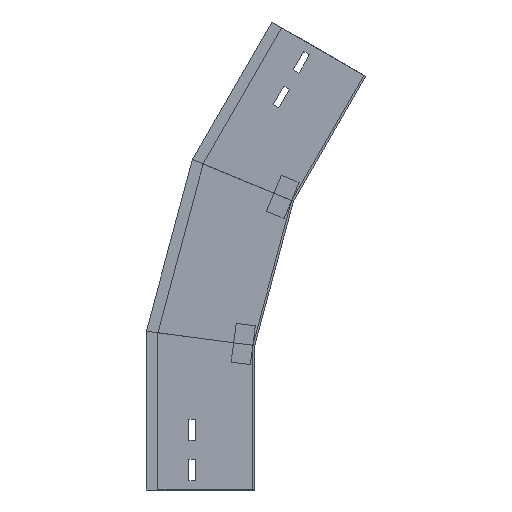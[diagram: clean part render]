
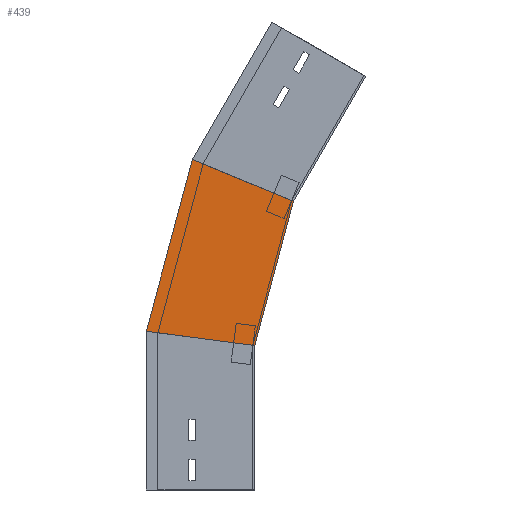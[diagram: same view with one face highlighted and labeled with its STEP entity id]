
A CAD part, left-side view. The second image highlights one B-rep face of the part: STEP entity #439.
In plain terms, the highlighted planar face has unit normal (-1, 0, 0) as drawn and (1, 0, 0) by its records, which use the part's own axes.
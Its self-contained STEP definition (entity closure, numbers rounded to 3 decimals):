
#24 = EDGE_CURVE ( 'NONE', #682, #1186, #198, .T. ) ;
#90 = DIRECTION ( 'NONE',  ( 0., -0.924, -0.383 ) ) ;
#92 = CARTESIAN_POINT ( 'NONE',  ( 0., 0., 150. ) ) ;
#94 = LINE ( 'NONE', #1126, #1498 ) ;
#95 = DIRECTION ( 'NONE',  ( 1., 0., 0. ) ) ;
#175 = VERTEX_POINT ( 'NONE', #92 ) ;
#197 = PLANE ( 'NONE',  #374 ) ;
#198 = LINE ( 'NONE', #1129, #1164 ) ;
#272 = VERTEX_POINT ( 'NONE', #433 ) ;
#275 = LINE ( 'NONE', #729, #863 ) ;
#292 = CARTESIAN_POINT ( 'NONE',  ( 0., -40.117, 299.719 ) ) ;
#374 = AXIS2_PLACEMENT_3D ( 'NONE', #778, #95, #551 ) ;
#398 = CARTESIAN_POINT ( 'NONE',  ( 0., 4.243, 134.167 ) ) ;
#433 = CARTESIAN_POINT ( 'NONE',  ( 0., 112.5, 164.811 ) ) ;
#439 = ADVANCED_FACE ( 'NONE', ( #923 ), #197, .T. ) ;
#458 = CARTESIAN_POINT ( 'NONE',  ( 0., 64.716, 343.142 ) ) ;
#532 = EDGE_LOOP ( 'NONE', ( #698, #644, #1026, #692 ) ) ;
#551 = DIRECTION ( 'NONE',  ( 0., 0., -1. ) ) ;
#569 = DIRECTION ( 'NONE',  ( 0., -0.259, 0.966 ) ) ;
#644 = ORIENTED_EDGE ( 'NONE', *, *, #24, .T. ) ;
#682 = VERTEX_POINT ( 'NONE', #458 ) ;
#692 = ORIENTED_EDGE ( 'NONE', *, *, #829, .F. ) ;
#698 = ORIENTED_EDGE ( 'NONE', *, *, #1259, .T. ) ;
#729 = CARTESIAN_POINT ( 'NONE',  ( 0., -19.411, 147.444 ) ) ;
#778 = CARTESIAN_POINT ( 'NONE',  ( 0., 4.243, 134.167 ) ) ;
#829 = EDGE_CURVE ( 'NONE', #272, #175, #275, .T. ) ;
#863 = VECTOR ( 'NONE', #1201, 1000. ) ;
#872 = DIRECTION ( 'NONE',  ( 0., -0.259, 0.966 ) ) ;
#923 = FACE_OUTER_BOUND ( 'NONE', #532, .T. ) ;
#1026 = ORIENTED_EDGE ( 'NONE', *, *, #1447, .F. ) ;
#1097 = LINE ( 'NONE', #398, #1278 ) ;
#1126 = CARTESIAN_POINT ( 'NONE',  ( 0., 112.909, 163.284 ) ) ;
#1129 = CARTESIAN_POINT ( 'NONE',  ( 0., -60.785, 291.157 ) ) ;
#1164 = VECTOR ( 'NONE', #90, 1000. ) ;
#1186 = VERTEX_POINT ( 'NONE', #292 ) ;
#1201 = DIRECTION ( 'NONE',  ( 0., -0.991, -0.131 ) ) ;
#1259 = EDGE_CURVE ( 'NONE', #272, #682, #94, .T. ) ;
#1278 = VECTOR ( 'NONE', #872, 1000. ) ;
#1447 = EDGE_CURVE ( 'NONE', #175, #1186, #1097, .T. ) ;
#1498 = VECTOR ( 'NONE', #569, 1000. ) ;
